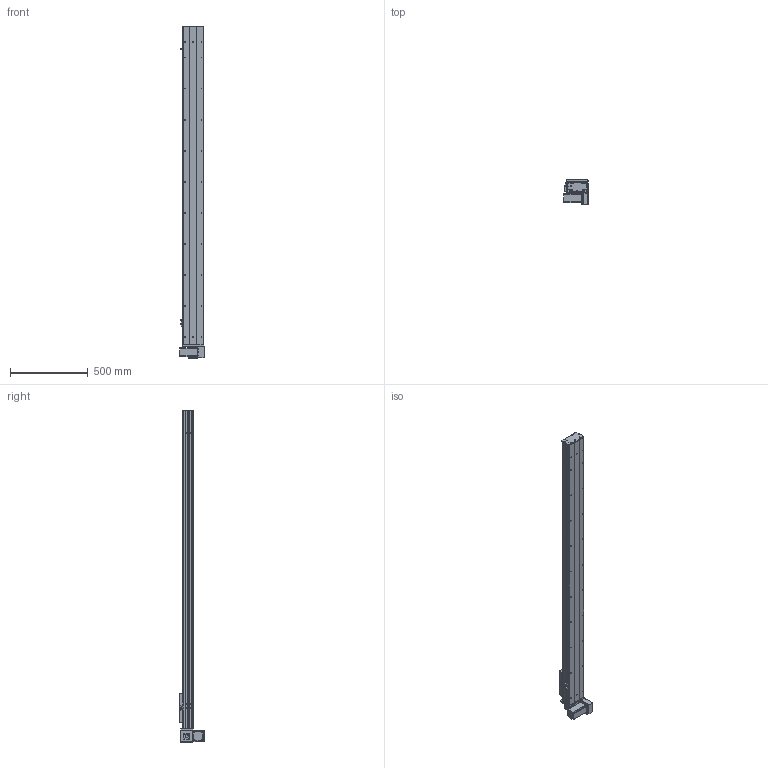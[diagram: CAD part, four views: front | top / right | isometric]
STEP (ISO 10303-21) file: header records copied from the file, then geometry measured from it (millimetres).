
FILE_DESCRIPTION (( 'STEP AP203' ), '1' );
FILE_NAME ('Y135CB-D90-S1750-BM-P400W.STEP', '2020-02-19T01:33:59', ( '微软用户' ), ( '微软中国' ), 'SwSTEP 2.0', 'SolidWorks 2017', '' );
FILE_SCHEMA (( 'CONFIG_CONTROL_DESIGN' ));
Length unit declared in the file: millimetre
Products named in the file (18): 135CB--詩湍-CE; 0B-源倛裔啣; Y100-135俋离換覜ん--; 0B-萇儂楊擘啣; Y135C-陔俋离換覜結え-; 5C--俋欶; C-雄赽釱--; Y135CB-耜裔; Y10B--々湍喘謫眊--666; san松下电机400不带刹车----; 135CB---遴掛极.-; 00B-俋欶BM--; 5CB --掛极耜裔啣-; 35CB---喘謫眊楊擘啣; Y10B-耜蚾蟀諉啣----; C-詩湍揤踡え-陔; 0B-埴倛裔啣; Y135CB-D90-S1750-BM-P400W
Assembly tree (21 placements, depth 2):
  Y135CB-D90-S1750-BM-P400W
    Y135CB-耜裔
    135CB---遴掛极.-
    35CB---喘謫眊楊擘啣
    0B-埴倛裔啣
    0B-源倛裔啣
    0B-萇儂楊擘啣
    san松下电机400不带刹车----
    5CB --掛极耜裔啣-  x2
    C-詩湍揤踡え-陔  x2
    135CB--詩湍-CE
    Y100-135俋离換覜ん--  x3
    Y135C-陔俋离換覜結え-
    5C--俋欶
    C-雄赽釱--
    Y10B--々湍喘謫眊--666
    00B-俋欶BM--
    Y10B-耜蚾蟀諉啣----
Bounding box: 157 x 163.3 x 2138 mm (x, y, z)
Volume: 6334079.2 mm3; surface area: 2498137.6 mm2
Topology: 21 solids, 21 shells, 961 faces, 2599 edges, 1722 vertices
Faces by surface type: cylinder 489, plane 456, cone 16
Entity records: 30157 total; most frequent: DIRECTION 5011, CARTESIAN_POINT 4988, ORIENTED_EDGE 4674, EDGE_CURVE 2337, AXIS2_PLACEMENT_3D 1833, VERTEX_POINT 1550, VECTOR 1345, LINE 1345
